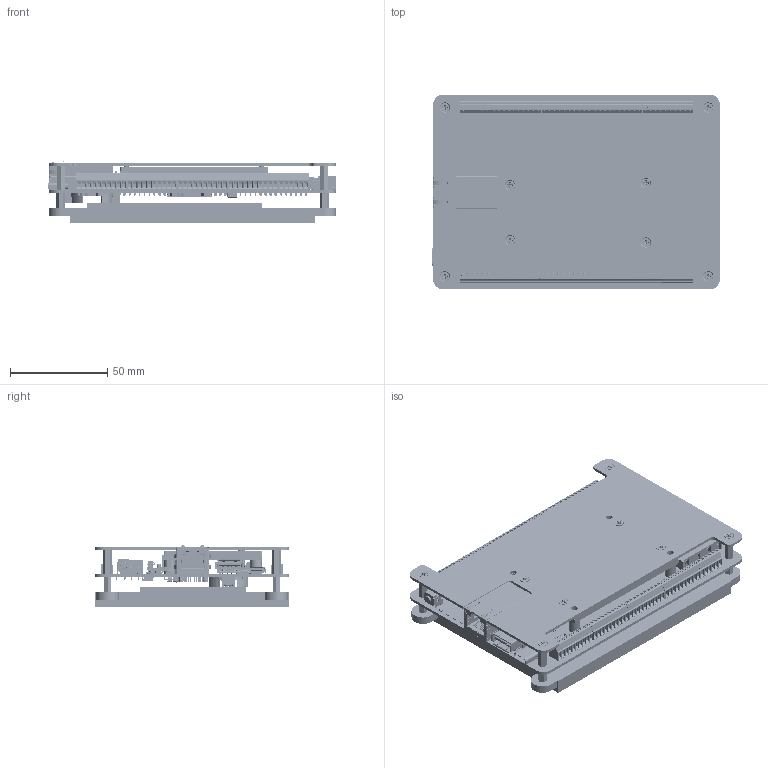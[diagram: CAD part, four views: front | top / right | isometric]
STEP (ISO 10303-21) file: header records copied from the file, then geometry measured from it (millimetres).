
FILE_DESCRIPTION(/* description */ ('STEP AP242','CAx-IF Rec.Pracs.---Representation and Presentation of Product Manufacturing Information (PMI)---4.0---2014-10-13','CAx-IF Rec.Pracs.---3D Tessellated Geometry---0.4---2014-09-14','2;1'),/* implementation_level */ '2;1');
FILE_NAME(/* name */ '61e6cb118d8ff17302ad4c98',/* time_stamp */ '2022-01-18T14:13:59+00:00',/* author */ (''),/* organization */ (''),/* preprocessor_version */ 'ST-DEVELOPER v18.101',/* originating_system */ ' ',/* authorisation */ ' ');
FILE_SCHEMA (('AP242_MANAGED_MODEL_BASED_3D_ENGINEERING_MIM_LF { 1 0 10303 442 1 1 4 }'));
Products named in the file (96): Assembly 1 red rot; 693072010801_CACHE; Extruded; PH Countersunk flat head screw M2.5x0.45 x 6; mpt_0.5-10-2.54_1; Extruded_1; mpt_0.5-10-2.54_5; 6100xx21121_PIN_3; 693072010801_PATTE_1; 693072010801_PIN_6; Extruded_2; SOM socket; 693072010801_PIN_3; 6913221100xx_PIN_2; cs; User_Library-HSMx-C120_RGB55807; 693072010801_PATTE_3; 6913221100xx_PIN; 6130xx11021_PIN_1; 691325110003; PH Countersunk flat head screw M2.5x0.45 x 10; bracket; 693072010801_PIN_4; _0usbC1; 9774070360_3; 61000821121; 9774070360; 693043020611; ___C02SYAN; insulator; CONN_MM60-EZH059-B5-R2; distb8; mpt_0.5-6-2.54_1; mpt_0.5-10-2.54_6; kk mc; OTHER_BAT-H_2032; distb12; mpt_0.5-6-2.54; User_Library-HSMx-C120_RGB2232046; 693072010801_PATTE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
Assembly tree (99 placements, depth 2):
  Assembly 1 red rot
    693072010801_CACHE
    Extruded
    PH Countersunk flat head screw M2.5x0.45 x 6  x3
    mpt_0.5-10-2.54_1
    Extruded_1
    mpt_0.5-10-2.54_5
    6100xx21121_PIN_3
    693072010801_PATTE_1
    Extruded_1
    Extruded
    Extruded_2
    SOM socket
    693072010801_PIN_3
    Extruded_1
    6913221100xx_PIN_2
    Extruded
    cs
    User_Library-HSMx-C120_RGB55807
    693072010801_PATTE_3
    6913221100xx_PIN
    6130xx11021_PIN_1
    Extruded
    691325110003
    PH Countersunk flat head screw M2.5x0.45 x 10  x4
    bracket
    693072010801_PIN_4
    _0usbC1
    9774070360_3
    61000821121
    9774070360
    693043020611
    ___C02SYAN
    insulator
    CONN_MM60-EZH059-B5-R2
    distb8  x3
    mpt_0.5-6-2.54_1
    mpt_0.5-10-2.54_6
    kk mc
    distb12  x4
    mpt_0.5-6-2.54
    OTHER_BAT-H_2032
    User_Library-HSMx-C120_RGB2232046
    693072010801_PATTE
    User_Library-HSMx-C120_RGB48896_1
    693072010801_PIN_5
    edge
    mpt_0.5-10-2.54_2
    FH12-40S-0.5SH_\X\8A\ÜH\X\97\Ü*
    6100xx21121_PIN_5
    shielding
    693072010801_PIN_2
    mpt_0.5-10-2.54_7
    mpt_0.5-10-2.54_3
    875832010bplf
    6100xx21121_PIN_2
    Open CASCADE STEP translator 6.8 1.1.1
    61300211021
    mpt_0.5-10-2.54_4
    ___C02SYAN
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Bounding box: 148.16 x 100.01 x 31.86 mm (x, y, z)
Volume: 193913.9 mm3; surface area: 192641.1 mm2
Topology: 106 solids, 110 shells, 14011 faces, 37841 edges, 24726 vertices
Faces by surface type: plane 10729, cylinder 2912, sphere 130, bspline 114, torus 69, cone 57
Full cylindrical faces by diameter (mm): 0.01 x4, 0.1 x27, 0.2 x6, 0.3 x2, 0.457 x10, 0.5 x2, 0.65 x1, 0.7 x2, 0.85 x4, 0.9 x9, 1 x2, 1.1 x202, 1.118 x2, 1.2 x2, 1.27 x2, 1.3 x3, 1.4 x2, 1.6 x4, 1.8 x3, 2.1 x92, 2.2 x94, 2.3 x2, 2.459 x4, 2.5 x20, 2.8 x18, 3.25 x6, 3.4 x16, 3.5 x5, 3.55 x2, 4.2 x4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
Entity records: 443449 total; most frequent: CARTESIAN_POINT 84658, ORIENTED_EDGE 72102, DIRECTION 68993, EDGE_CURVE 36051, LINE 29165, VECTOR 29165, VERTEX_POINT 23885, AXIS2_PLACEMENT_3D 19914
